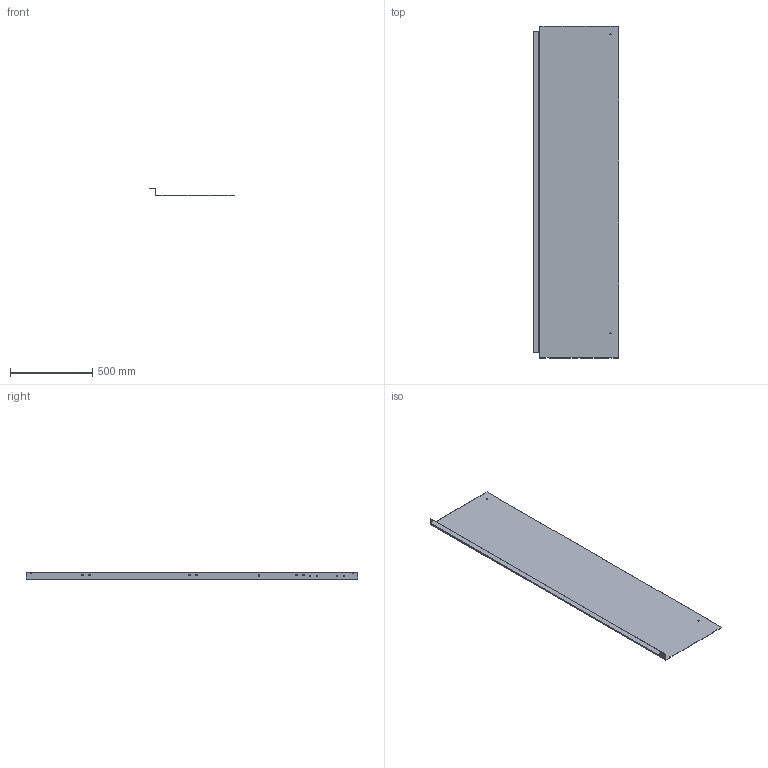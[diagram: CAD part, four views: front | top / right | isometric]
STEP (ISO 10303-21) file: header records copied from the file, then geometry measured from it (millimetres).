
FILE_DESCRIPTION (( 'STEP AP203' ), '1' );
FILE_NAME ('ORW-72.24.10.003 Ñòåíêà ëåâàÿ.STEP', '2025-12-17T13:00:28', ( 'Àíäðåé' ), ( '' ), 'SwSTEP 2.0', 'SolidWorks 2025', '' );
FILE_SCHEMA (( 'CONFIG_CONTROL_DESIGN' ));
Length unit declared in the file: millimetre
Products named in the file (1): ORW-72.24.10.003 Стенка левая
Bounding box: 518.5 x 2015 x 46 mm (x, y, z)
Volume: 2249463.7 mm3; surface area: 2260543 mm2
Topology: 1 solids, 1 shells, 93 faces, 267 edges, 176 vertices
Faces by surface type: plane 70, cylinder 17, cone 6
Full cylindrical faces by diameter (mm): 6.4 x4, 6.9 x3, 8.9 x6
Entity records: 2929 total; most frequent: CARTESIAN_POINT 526, ORIENTED_EDGE 476, DIRECTION 438, EDGE_CURVE 238, VECTOR 170, LINE 170, VERTEX_POINT 166, EDGE_LOOP 138
